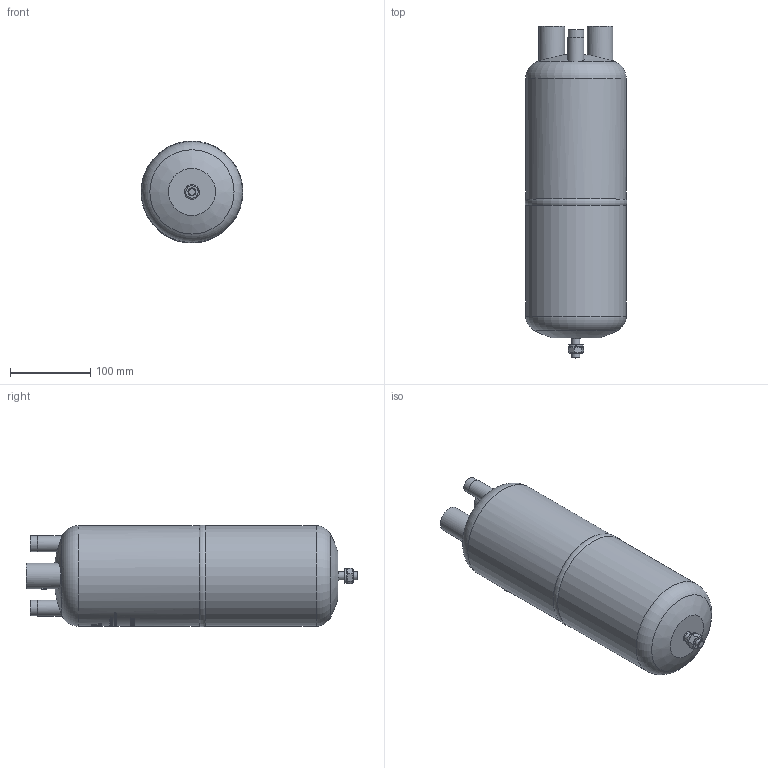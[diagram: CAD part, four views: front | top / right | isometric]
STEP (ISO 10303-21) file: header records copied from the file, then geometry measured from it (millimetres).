
FILE_DESCRIPTION(/* description */ (''),/* implementation_level */ '2;1');
FILE_NAME(/* name */ 'P:\FA\FA-28W\FA-28W.stp',/* time_stamp */ '2017-10-05T07:52:04+02:00',/* author */ ('neufeld'),/* organization */ (''),/* preprocessor_version */ 'ST-DEVELOPER v16.1',/* originating_system */ 'Autodesk Inventor 2016',/* authorisation */ '');
FILE_SCHEMA (('AUTOMOTIVE_DESIGN { 1 0 10303 214 3 1 1 }'));
Products named in the file (2): FA-28W; FA-28W_1
Assembly tree (1 placements, depth 2):
  FA-28W_1
    FA-28W
Bounding box: 126.71 x 413 x 126.8 mm (x, y, z)
Volume: 4196352.5 mm3; surface area: 171454.8 mm2
Topology: 1 solids, 1 shells, 1269 faces, 3447 edges, 2296 vertices
Faces by surface type: plane 676, bspline 458, cylinder 122, cone 9, torus 4
Full cylindrical faces by diameter (mm): 10 x2, 16.2 x2, 19.4 x2, 20 x2, 28.7 x2, 32 x2, 125 x2
Entity records: 49517 total; most frequent: CARTESIAN_POINT 19924, ORIENTED_EDGE 6822, DIRECTION 4986, EDGE_CURVE 3411, VERTEX_POINT 2288, AXIS2_PLACEMENT_3D 1695, LINE 1596, VECTOR 1596
